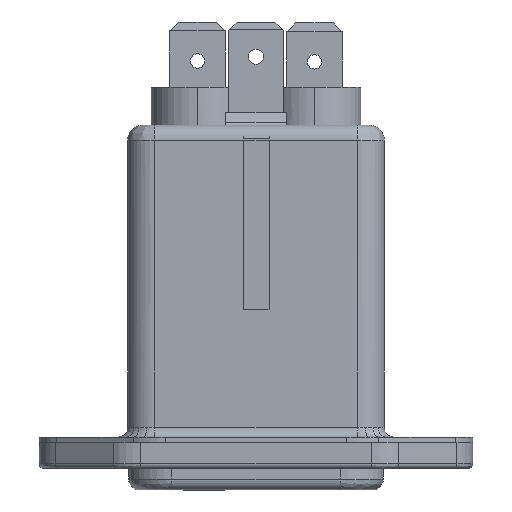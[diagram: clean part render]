
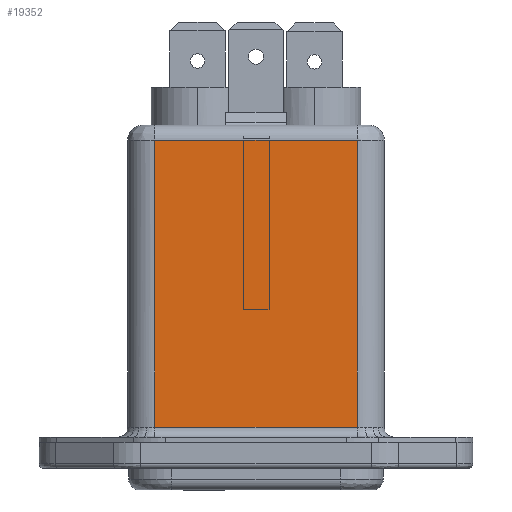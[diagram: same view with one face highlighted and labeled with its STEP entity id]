
A CAD part, front view. The second image highlights one B-rep face of the part: STEP entity #19352.
In plain terms, the highlighted planar face has unit normal (0, -1, 0).
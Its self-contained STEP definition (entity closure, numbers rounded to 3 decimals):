
#632 = CARTESIAN_POINT ( 'NONE',  ( -11.7, -10.5, -36. ) ) ;
#2908 = VERTEX_POINT ( 'NONE', #13739 ) ;
#2951 = ORIENTED_EDGE ( 'NONE', *, *, #20322, .F. ) ;
#2998 = DIRECTION ( 'NONE',  ( 0., 1., 0. ) ) ;
#3105 = VERTEX_POINT ( 'NONE', #14375 ) ;
#3412 = EDGE_CURVE ( 'NONE', #2908, #9688, #20634, .T. ) ;
#3743 = CARTESIAN_POINT ( 'NONE',  ( 14.8, -10.5, -34.25 ) ) ;
#4192 = EDGE_LOOP ( 'NONE', ( #16515, #21412, #2951, #13904 ) ) ;
#6991 = CARTESIAN_POINT ( 'NONE',  ( 11.7, -10.5, -1.15 ) ) ;
#7293 = EDGE_CURVE ( 'NONE', #9688, #3105, #8005, .T. ) ;
#7677 = VERTEX_POINT ( 'NONE', #15290 ) ;
#8005 = LINE ( 'NONE', #10553, #12338 ) ;
#8496 = PLANE ( 'NONE',  #20094 ) ;
#9688 = VERTEX_POINT ( 'NONE', #6991 ) ;
#10436 = CARTESIAN_POINT ( 'NONE',  ( 14.8, -10.5, -1.15 ) ) ;
#10553 = CARTESIAN_POINT ( 'NONE',  ( 11.7, -10.5, -36. ) ) ;
#12338 = VECTOR ( 'NONE', #16110, 1000. ) ;
#12344 = LINE ( 'NONE', #3743, #22724 ) ;
#13481 = EDGE_CURVE ( 'NONE', #7677, #2908, #13618, .T. ) ;
#13618 = LINE ( 'NONE', #632, #17968 ) ;
#13739 = CARTESIAN_POINT ( 'NONE',  ( -11.7, -10.5, -1.15 ) ) ;
#13904 = ORIENTED_EDGE ( 'NONE', *, *, #7293, .F. ) ;
#13954 = CARTESIAN_POINT ( 'NONE',  ( 14.8, -10.5, -36. ) ) ;
#14375 = CARTESIAN_POINT ( 'NONE',  ( 11.7, -10.5, -34.25 ) ) ;
#15290 = CARTESIAN_POINT ( 'NONE',  ( -11.7, -10.5, -34.25 ) ) ;
#15899 = DIRECTION ( 'NONE',  ( -1., 0., 0. ) ) ;
#16110 = DIRECTION ( 'NONE',  ( 0., 0., -1. ) ) ;
#16515 = ORIENTED_EDGE ( 'NONE', *, *, #3412, .F. ) ;
#17968 = VECTOR ( 'NONE', #18965, 1000. ) ;
#18965 = DIRECTION ( 'NONE',  ( 0., 0., 1. ) ) ;
#18976 = FACE_OUTER_BOUND ( 'NONE', #4192, .T. ) ;
#19352 = ADVANCED_FACE ( 'NONE', ( #18976 ), #8496, .F. ) ;
#20055 = VECTOR ( 'NONE', #23417, 1000. ) ;
#20094 = AXIS2_PLACEMENT_3D ( 'NONE', #13954, #2998, #15899 ) ;
#20322 = EDGE_CURVE ( 'NONE', #3105, #7677, #12344, .T. ) ;
#20634 = LINE ( 'NONE', #10436, #20055 ) ;
#21412 = ORIENTED_EDGE ( 'NONE', *, *, #13481, .F. ) ;
#22047 = DIRECTION ( 'NONE',  ( -1., 0., 0. ) ) ;
#22724 = VECTOR ( 'NONE', #22047, 1000. ) ;
#23417 = DIRECTION ( 'NONE',  ( 1., 0., 0. ) ) ;
